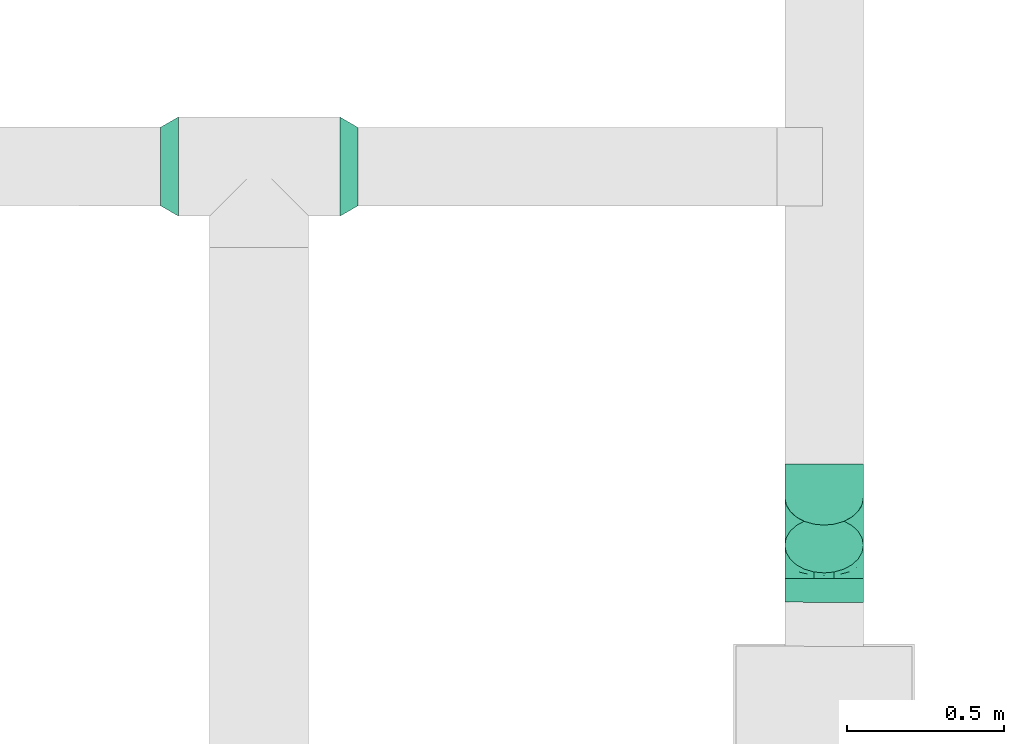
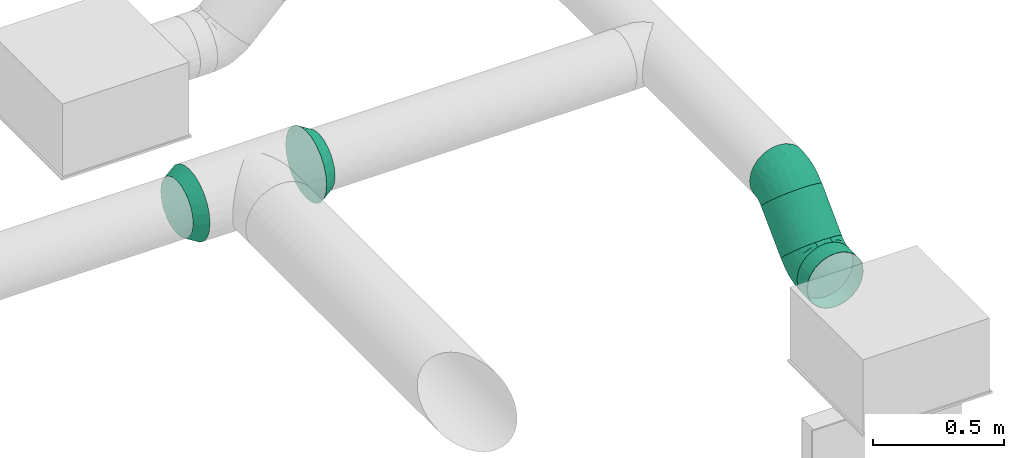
# One storey, part 44 of 63: 4 flow fittings, 2 flow segments.
"""IFC2X3 building model written with IfcOpenShell, lengths in millimetres."""

from ifc_helpers import new_model, entity, si_unit, converted_unit, derived_unit, direction, frame, origin_with_axes, origin_2d_with_axis, place, context, subcontext, project, spatial, hollow_circle, extrude, open_shell, surface_model, source, transform, mapped, type_object, element, save


model = new_model("IFC2X3")

# Units and contexts
model_context = context("Model", 3, precision=0.01, world=frame((0.0, 4.29681676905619e-09, 0.0)), true_north=direction((4.01073788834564e-13, 1.0)))
plan_context = context("Plan", 3, precision=0.01, world=frame((0.0, 4.29681676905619e-09, 0.0)), true_north=direction((4.01073788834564e-13, 1.0)))
body_context = subcontext(model_context, "Body", "Model", "MODEL_VIEW")
ifc_project = project(units=[converted_unit("PLANEANGLEUNIT", "DEGREE", entity("IfcPositiveLengthMeasure", 0.0174532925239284), si_unit("PLANEANGLEUNIT", "RADIAN"), dimensions=[0, 0, 0, 0, 0, 0, 0]), si_unit("AREAUNIT", "SQUARE_METRE"), si_unit("LENGTHUNIT", "METRE", prefix="MILLI"), si_unit("MASSUNIT", "GRAM", prefix="KILO"), si_unit("POWERUNIT", "WATT"), si_unit("PRESSUREUNIT", "PASCAL"), si_unit("FORCEUNIT", "NEWTON", prefix="KILO"), si_unit("ELECTRICVOLTAGEUNIT", "VOLT"), si_unit("ELECTRICCURRENTUNIT", "AMPERE"), si_unit("THERMODYNAMICTEMPERATUREUNIT", "DEGREE_CELSIUS"), si_unit("TIMEUNIT", "SECOND"), si_unit("VOLUMEUNIT", "CUBIC_METRE"), derived_unit("LINEARVELOCITYUNIT", [(si_unit("LENGTHUNIT", "METRE"), 1), (si_unit("TIMEUNIT", "SECOND"), -1)]), derived_unit("VOLUMETRICFLOWRATEUNIT", [(si_unit("VOLUMEUNIT", "CUBIC_METRE"), 1), (si_unit("TIMEUNIT", "SECOND"), -1)]), derived_unit("THERMALTRANSMITTANCEUNIT", [(si_unit("POWERUNIT", "WATT"), 1), (si_unit("THERMODYNAMICTEMPERATUREUNIT", "KELVIN"), -1), (si_unit("AREAUNIT", "SQUARE_METRE"), -1)]), derived_unit("SOUNDPRESSUREUNIT", [(si_unit("PRESSUREUNIT", "PASCAL"), 1)])], contexts=[model_context, plan_context])

# Site, building, storey
site_placement = place(None, frame((0.0, -4.29681676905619e-09, 0.0), z_axis=(0.0, 0.0, 1.0), x_axis=(1.0, 0.0, 0.0)))
site = spatial("IfcSite", under=ifc_project, at=site_placement, CompositionType="ELEMENT")
building_placement = place(site_placement, frame((0.0, 4.29681676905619e-09, 0.0), z_axis=(0.0, 0.0, 1.0), x_axis=(1.0, 0.0, 0.0)))
building = spatial("IfcBuilding", under=site, at=building_placement, Name="mc-building", CompositionType="ELEMENT")
storey_placement = place(building_placement, frame((0.0, 0.0, 210900.0), z_axis=(0.0, 0.0, 1.0), x_axis=(1.0, 0.0, 0.0)))
storey = spatial("IfcBuildingStorey", under=building, at=storey_placement, Name="Nivå F", CompositionType="ELEMENT", Elevation=210900.0)

# Flow fittings
duct_fitting_type_1 = type_object("IfcDuctFittingType", Name="magicirc_elbow_short_001", PredefinedType="BEND")
shared_shape_1 = source(origin_with_axes(), body_context, "Body", "SurfaceModel", [
    surface_model("IfcShellBasedSurfaceModel", [(-62.13204, 0.0, -125.0), (-62.13204, -32.35238, -120.74073), (-62.13204, 32.35238, -120.74073), (-62.13204, 62.5, -108.25318), (-62.13204, 88.38835, -88.38835), (-62.13204, 108.25318, -62.5), (-62.13204, 120.74073, -32.35238), (-62.13204, -62.5, -108.25318), (-62.13204, -88.38835, -88.38835), (-62.13204, -125.0, 0.0), (-62.13204, -108.25318, -62.5), (-62.13204, -120.74073, -32.35238), (-62.13204, 125.0, 0.0), (-62.13204, -120.74073, 32.35238), (-62.13204, 120.74073, 32.35238), (-62.13204, 108.25318, 62.5), (-62.13204, 32.35238, 120.74073), (-62.13204, 62.5, 108.25318), (-62.13204, 88.38835, 88.38835), (-62.13204, -88.38835, 88.38835), (-62.13204, -108.25318, 62.5), (-62.13204, -32.35238, 120.74073), (-62.13204, 0.0, 125.0), (-62.13204, -62.5, 108.25318), (-32.61257, 120.48054, -62.5), (-41.44261, 129.31057, -32.35238), (-44.45436, 132.32233, 0.0), (-41.44261, 129.31057, 32.35238), (-32.61257, 120.48054, 62.5), (-39.32094, -100.77129, 72.52866), (-25.3983, -115.58366, 40.92131), (-9.38975, -99.61313, 67.6303), (-40.71594, 99.20513, 81.38635), (-18.56602, 106.43398, 88.38835), (6.93461, -16.74165, 121.22697), (-29.92798, -19.88945, 122.8817), (-17.69423, -50.99343, 111.83063), (-28.63512, 12.8945, 124.68547), (-43.55871, 45.16564, 117.17454), (-19.1971, 46.34588, 119.14586), (20.11216, -107.05726, 35.36285), (37.22525, -89.79474, 60.1728), (-42.64489, 65.81413, 107.6176), (18.18237, -43.89615, 109.72868), (-48.14682, 116.23669, 52.46898), (11.13029, 29.36587, 124.68547), (-8.4822, -119.71595, 0.0), (17.31186, -111.89141, 0.0), (-27.44697, 77.92943, 103.54984), (-1.13628, 62.73759, 117.17454), (-0.26019, 88.12816, 108.25318), (29.58221, -71.41779, 87.09722), (2.27359, -83.55864, 84.32151), (46.20365, -49.09439, 98.73245), (43.10591, -104.06687, 0.0), (-28.63512, 12.89449, -124.68547), (-29.92797, -19.88945, -122.8817), (11.13029, 29.36586, -124.68547), (-19.1971, 46.34588, -119.14586), (-43.55871, 45.16564, -117.17454), (-35.69649, 74.51237, -103.54983), (-25.3983, -115.58366, -40.92131), (-48.14682, 116.23669, -52.46898), (-39.32094, -100.77129, -72.52866), (-16.38313, 76.69211, -107.6176), (-18.56602, 106.43398, -88.38835), (-0.26019, 88.12816, -108.25318), (-17.69423, -50.99343, -111.83063), (6.93461, -16.74165, -121.22697), (-1.13628, 62.73759, -117.17454), (48.5695, -23.54609, -111.83063), (35.22623, 7.0983, -122.8817), (-9.38975, -99.61313, -67.63031), (2.04406, -67.38589, -98.73245), (29.58221, -71.41778, -87.09723), (43.93399, 43.934, -125.0), (106.43399, -18.56599, 88.38835), (132.32235, -44.45434, 0.0), (21.05739, 66.81058, -120.74073), (88.12817, -0.26017, 108.25318), (66.81057, 21.05741, -120.74073), (106.43399, -18.56599, -88.38835), (88.12817, -0.26017, -108.25318), (129.31058, -41.44258, -32.35238), (120.48055, -32.61255, -62.5), (21.05739, 66.81058, 120.74073), (43.93399, 43.934, 125.0), (129.31058, -41.44258, 32.35238), (120.48055, -32.61255, 62.5), (66.81057, 21.05741, 120.74073), (-31.08246, -121.94188, 0.0), (35.22622, 7.09831, 122.8817), (-25.98217, -78.69805, 94.74512), (-3.43913, -67.17105, 100.02812), (77.07669, -63.79755, 67.6303), (61.9235, -89.5906, 35.66991), (-52.56496, 126.90301, 0.0), (99.68931, -63.77067, 40.92131), (48.5695, -23.54609, 111.83062), (99.06018, -43.45194, 72.52866), (74.0201, -37.27574, 94.74512), (108.20455, -64.2473, 0.0), (90.64979, -78.65413, 0.0), (66.87785, -91.36049, 0.0), (19.56361, -107.13664, -35.66991), (-41.35812, 98.93914, -81.38635), (-25.98217, -78.69805, -94.74512), (61.47949, -89.92235, -35.36285), (18.18239, -43.89616, -109.72867), (57.47721, -60.69254, -84.32152), (74.02009, -37.27574, -94.74513), (77.07669, -63.79755, -67.6303), (37.17223, -89.81669, -60.17279), (99.68931, -63.77066, -40.92131), (99.06018, -43.45194, -72.52866), (49.92893, -45.06527, -100.02812)], [open_shell([[[0, 1, 2]], [[3, 2, 4]], [[1, 5, 2]], [[4, 2, 5]], [[5, 1, 6]], [[7, 8, 1]], [[9, 1, 8]], [[10, 11, 8]], [[9, 8, 11]], [[9, 6, 1]], [[9, 12, 6]], [[12, 13, 14]], [[15, 14, 16]], [[16, 17, 18]], [[15, 16, 18]], [[16, 14, 19]], [[20, 19, 13]], [[19, 14, 13]], [[21, 22, 23]], [[19, 23, 22]], [[19, 22, 16]], [[9, 13, 12]], [[24, 25, 26]], [[26, 27, 28]], [[29, 30, 31]], [[32, 33, 28]], [[30, 20, 13]], [[34, 35, 36]], [[21, 35, 22]], [[21, 23, 36]], [[16, 22, 37]], [[38, 37, 39]], [[31, 40, 41]], [[42, 17, 38]], [[38, 17, 16]], [[43, 34, 36]], [[35, 37, 22]], [[14, 15, 44]], [[42, 32, 18]], [[29, 19, 20]], [[40, 31, 30]], [[37, 45, 39]], [[45, 37, 34]], [[40, 46, 47]], [[42, 18, 17]], [[33, 32, 48]], [[27, 44, 28]], [[48, 39, 49]], [[33, 48, 50]], [[44, 32, 28]], [[18, 32, 15]], [[36, 35, 21]], [[37, 35, 34]], [[41, 51, 52]], [[14, 44, 27]], [[32, 44, 15]], [[37, 38, 16]], [[42, 39, 48]], [[39, 42, 38]], [[42, 48, 32]], [[48, 49, 50]], [[45, 49, 39]], [[30, 29, 20]], [[53, 43, 51]], [[46, 40, 30]], [[47, 54, 40]], [[41, 52, 31]], [[0, 2, 55]], [[56, 1, 0]], [[57, 55, 58]], [[59, 60, 58]], [[10, 61, 11]], [[3, 4, 60]], [[62, 6, 25]], [[61, 10, 63]], [[64, 65, 66]], [[1, 56, 67]], [[8, 63, 10]], [[7, 1, 67]], [[56, 55, 68]], [[25, 24, 62]], [[69, 64, 66]], [[2, 3, 59]], [[59, 55, 2]], [[69, 57, 58]], [[70, 68, 71]], [[55, 57, 68]], [[55, 56, 0]], [[67, 56, 68]], [[57, 71, 68]], [[6, 62, 5]], [[60, 59, 3]], [[55, 59, 58]], [[64, 58, 60]], [[58, 64, 69]], [[61, 63, 72]], [[72, 73, 74]], [[75, 76, 77]], [[66, 26, 78]], [[78, 79, 75]], [[24, 66, 65]], [[66, 24, 26]], [[80, 81, 82]], [[80, 75, 81]], [[81, 83, 84]], [[83, 81, 77]], [[75, 77, 81]], [[26, 28, 50]], [[50, 85, 26]], [[50, 28, 33]], [[26, 85, 86]], [[87, 76, 88]], [[77, 76, 87]], [[79, 86, 89]], [[76, 75, 79]], [[86, 79, 26]], [[78, 26, 79]], [[90, 46, 30]], [[91, 45, 34]], [[23, 92, 36]], [[52, 93, 92]], [[94, 41, 95]], [[23, 19, 92]], [[96, 14, 27]], [[40, 95, 41]], [[96, 12, 14]], [[94, 95, 97]], [[40, 54, 95]], [[98, 89, 91]], [[99, 88, 76]], [[89, 98, 79]], [[88, 99, 97]], [[88, 97, 87]], [[98, 100, 79]], [[53, 94, 100]], [[97, 101, 87]], [[85, 50, 49]], [[41, 94, 51]], [[30, 13, 90]], [[26, 96, 27]], [[95, 102, 97]], [[95, 54, 103]], [[86, 91, 89]], [[86, 85, 45]], [[45, 85, 49]], [[34, 43, 98]], [[29, 92, 19]], [[79, 100, 76]], [[52, 92, 31]], [[95, 103, 102]], [[53, 100, 98]], [[99, 100, 94]], [[45, 91, 86]], [[98, 91, 34]], [[13, 9, 90]], [[101, 97, 102]], [[101, 77, 87]], [[92, 29, 31]], [[100, 99, 76]], [[97, 99, 94]], [[93, 36, 92]], [[51, 43, 93]], [[51, 93, 52]], [[43, 36, 93]], [[43, 53, 98]], [[94, 53, 51]], [[104, 46, 61]], [[78, 75, 57]], [[4, 105, 60]], [[73, 72, 106]], [[80, 82, 70]], [[61, 90, 11]], [[83, 77, 101]], [[106, 7, 67]], [[107, 102, 103]], [[104, 54, 47]], [[72, 104, 61]], [[106, 8, 7]], [[68, 108, 67]], [[6, 12, 96]], [[109, 110, 111]], [[96, 26, 25]], [[112, 72, 74]], [[113, 83, 101]], [[82, 81, 110]], [[113, 84, 83]], [[64, 105, 65]], [[4, 5, 105]], [[114, 81, 84]], [[110, 109, 115]], [[70, 82, 110]], [[66, 78, 69]], [[75, 80, 71]], [[111, 114, 113]], [[108, 68, 70]], [[113, 101, 102]], [[107, 104, 112]], [[107, 111, 113]], [[111, 107, 112]], [[71, 57, 75]], [[104, 47, 46]], [[96, 25, 6]], [[114, 110, 81]], [[107, 54, 104]], [[73, 106, 67]], [[63, 106, 72]], [[62, 105, 5]], [[65, 105, 24]], [[70, 71, 80]], [[90, 61, 46]], [[90, 9, 11]], [[72, 112, 104]], [[112, 74, 109]], [[105, 62, 24]], [[57, 69, 78]], [[64, 60, 105]], [[113, 114, 84]], [[110, 114, 111]], [[106, 63, 8]], [[115, 70, 110]], [[73, 108, 74]], [[102, 107, 113]], [[103, 54, 107]], [[112, 109, 111]], [[74, 108, 115]], [[74, 115, 109]], [[108, 70, 115]], [[108, 73, 67]]])]),
])
flow_fitting_1_placement = place(storey_placement, frame((534103.93333, 458540.3671, 3960.01264), z_axis=(0.999999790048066, -0.000647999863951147, 0.0), x_axis=(0.000647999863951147, 0.999999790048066, 0.0)))
element("IfcFlowFitting", 1, at=flow_fitting_1_placement, inside=storey, type_object=duct_fitting_type_1, Name="magicirc_elbow_short_001", context=body_context, shape_type="MappedRepresentation", body=[
    mapped(shared_shape_1, transform((0.0, 0.0, 0.0), scale=1.0)),
])
shared_shape_2 = source(origin_with_axes(), body_context, "Body", "SurfaceModel", [
    surface_model("IfcShellBasedSurfaceModel", [(-62.13204, 0.0, -125.0), (-62.13204, -32.35238, -120.74073), (-62.13204, 32.35238, -120.74073), (-62.13204, 62.5, -108.25318), (-62.13204, 88.38835, -88.38835), (-62.13204, 108.25318, -62.5), (-62.13204, 120.74073, -32.35238), (-62.13204, -62.5, -108.25318), (-62.13204, -88.38835, -88.38835), (-62.13204, -125.0, 0.0), (-62.13204, -108.25318, -62.5), (-62.13204, -120.74073, -32.35238), (-62.13204, 125.0, 0.0), (-62.13204, -120.74073, 32.35238), (-62.13204, 120.74073, 32.35238), (-62.13204, 108.25318, 62.5), (-62.13204, 32.35238, 120.74073), (-62.13204, 62.5, 108.25318), (-62.13204, 88.38835, 88.38835), (-62.13204, -88.38835, 88.38835), (-62.13204, -108.25318, 62.5), (-62.13204, -32.35238, 120.74073), (-62.13204, 0.0, 125.0), (-62.13204, -62.5, 108.25318), (-32.61257, 120.48054, -62.5), (-41.44261, 129.31057, -32.35238), (-44.45436, 132.32233, 0.0), (-41.44261, 129.31057, 32.35238), (-32.61257, 120.48054, 62.5), (-39.32094, -100.77129, 72.52866), (-25.3983, -115.58366, 40.92131), (-9.38975, -99.61313, 67.6303), (-40.71594, 99.20513, 81.38635), (-18.56602, 106.43398, 88.38835), (6.93461, -16.74165, 121.22697), (-29.92798, -19.88945, 122.8817), (-17.69423, -50.99343, 111.83063), (-28.63512, 12.8945, 124.68547), (-43.55871, 45.16564, 117.17454), (-19.1971, 46.34588, 119.14586), (20.11216, -107.05726, 35.36285), (37.22525, -89.79474, 60.1728), (-42.64489, 65.81413, 107.6176), (18.18237, -43.89615, 109.72868), (-48.14682, 116.23669, 52.46898), (11.13029, 29.36587, 124.68547), (-8.4822, -119.71595, 0.0), (17.31186, -111.89141, 0.0), (-27.44697, 77.92943, 103.54984), (-1.13628, 62.73759, 117.17454), (-0.26019, 88.12816, 108.25318), (29.58221, -71.41779, 87.09722), (2.27359, -83.55864, 84.32151), (46.20365, -49.09439, 98.73245), (43.10591, -104.06687, 0.0), (-28.63512, 12.89449, -124.68547), (-29.92797, -19.88945, -122.8817), (11.13029, 29.36586, -124.68547), (-19.1971, 46.34588, -119.14586), (-43.55871, 45.16564, -117.17454), (-35.69649, 74.51237, -103.54983), (-25.3983, -115.58366, -40.92131), (-48.14682, 116.23669, -52.46898), (-39.32094, -100.77129, -72.52866), (-16.38313, 76.69211, -107.6176), (-18.56602, 106.43398, -88.38835), (-0.26019, 88.12816, -108.25318), (-17.69423, -50.99343, -111.83063), (6.93461, -16.74165, -121.22697), (-1.13628, 62.73759, -117.17454), (48.5695, -23.54609, -111.83063), (35.22623, 7.0983, -122.8817), (-9.38975, -99.61313, -67.63031), (2.04406, -67.38589, -98.73245), (29.58221, -71.41778, -87.09723), (43.93399, 43.934, -125.0), (106.43399, -18.56599, 88.38835), (132.32235, -44.45434, 0.0), (21.05739, 66.81058, -120.74073), (88.12817, -0.26017, 108.25318), (66.81057, 21.05741, -120.74073), (106.43399, -18.56599, -88.38835), (88.12817, -0.26017, -108.25318), (129.31058, -41.44258, -32.35238), (120.48055, -32.61255, -62.5), (21.05739, 66.81058, 120.74073), (43.93399, 43.934, 125.0), (129.31058, -41.44258, 32.35238), (120.48055, -32.61255, 62.5), (66.81057, 21.05741, 120.74073), (-31.08246, -121.94188, 0.0), (35.22622, 7.09831, 122.8817), (77.07669, -63.79755, 67.6303), (61.9235, -89.5906, 35.66991), (-52.56496, 126.90301, 0.0), (99.68931, -63.77067, 40.92131), (48.5695, -23.54609, 111.83062), (99.06018, -43.45194, 72.52866), (74.0201, -37.27574, 94.74512), (108.20455, -64.2473, 0.0), (90.64979, -78.65413, 0.0), (66.87785, -91.36049, 0.0), (-3.43913, -67.17105, 100.02812), (19.56361, -107.13664, -35.66991), (-41.35812, 98.93914, -81.38635), (-25.98217, -78.69805, -94.74512), (61.47949, -89.92235, -35.36285), (18.18239, -43.89616, -109.72867), (57.47721, -60.69254, -84.32152), (74.02009, -37.27574, -94.74513), (77.07669, -63.79755, -67.6303), (37.17223, -89.81669, -60.17279), (99.68931, -63.77066, -40.92131), (99.06018, -43.45194, -72.52866), (49.92893, -45.06527, -100.02812), (-25.98217, -78.69805, 94.74512)], [open_shell([[[0, 1, 2]], [[3, 2, 4]], [[1, 5, 2]], [[4, 2, 5]], [[5, 1, 6]], [[7, 8, 1]], [[9, 1, 8]], [[10, 11, 8]], [[9, 8, 11]], [[9, 6, 1]], [[9, 12, 6]], [[12, 13, 14]], [[15, 14, 16]], [[16, 17, 18]], [[15, 16, 18]], [[16, 14, 19]], [[20, 19, 13]], [[19, 14, 13]], [[21, 22, 23]], [[19, 23, 22]], [[19, 22, 16]], [[9, 13, 12]], [[24, 25, 26]], [[26, 27, 28]], [[29, 30, 31]], [[32, 33, 28]], [[30, 20, 13]], [[34, 35, 36]], [[21, 35, 22]], [[21, 23, 36]], [[16, 22, 37]], [[38, 37, 39]], [[31, 40, 41]], [[42, 17, 38]], [[38, 17, 16]], [[43, 34, 36]], [[35, 37, 22]], [[14, 15, 44]], [[42, 32, 18]], [[29, 19, 20]], [[40, 31, 30]], [[37, 45, 39]], [[45, 37, 34]], [[40, 46, 47]], [[42, 18, 17]], [[33, 32, 48]], [[27, 44, 28]], [[48, 39, 49]], [[33, 48, 50]], [[44, 32, 28]], [[18, 32, 15]], [[36, 35, 21]], [[37, 35, 34]], [[41, 51, 52]], [[14, 44, 27]], [[32, 44, 15]], [[37, 38, 16]], [[42, 39, 48]], [[39, 42, 38]], [[42, 48, 32]], [[48, 49, 50]], [[45, 49, 39]], [[30, 29, 20]], [[53, 43, 51]], [[46, 40, 30]], [[47, 54, 40]], [[41, 52, 31]], [[0, 2, 55]], [[56, 1, 0]], [[57, 55, 58]], [[59, 60, 58]], [[10, 61, 11]], [[3, 4, 60]], [[62, 6, 25]], [[61, 10, 63]], [[64, 65, 66]], [[1, 56, 67]], [[8, 63, 10]], [[7, 1, 67]], [[56, 55, 68]], [[25, 24, 62]], [[69, 64, 66]], [[2, 3, 59]], [[59, 55, 2]], [[69, 57, 58]], [[70, 68, 71]], [[55, 57, 68]], [[55, 56, 0]], [[67, 56, 68]], [[57, 71, 68]], [[6, 62, 5]], [[60, 59, 3]], [[55, 59, 58]], [[64, 58, 60]], [[58, 64, 69]], [[61, 63, 72]], [[72, 73, 74]], [[75, 76, 77]], [[66, 26, 78]], [[78, 79, 75]], [[24, 66, 65]], [[66, 24, 26]], [[80, 81, 82]], [[80, 75, 81]], [[81, 83, 84]], [[83, 81, 77]], [[75, 77, 81]], [[26, 28, 50]], [[50, 85, 26]], [[50, 28, 33]], [[26, 85, 86]], [[87, 76, 88]], [[77, 76, 87]], [[79, 86, 89]], [[76, 75, 79]], [[86, 79, 26]], [[78, 26, 79]], [[90, 46, 30]], [[91, 45, 34]], [[92, 41, 93]], [[94, 14, 27]], [[40, 93, 41]], [[94, 12, 14]], [[92, 93, 95]], [[40, 54, 93]], [[96, 89, 91]], [[97, 88, 76]], [[89, 96, 79]], [[88, 97, 95]], [[88, 95, 87]], [[96, 98, 79]], [[53, 92, 98]], [[95, 99, 87]], [[85, 50, 49]], [[41, 92, 51]], [[30, 13, 90]], [[26, 94, 27]], [[93, 100, 95]], [[93, 54, 101]], [[86, 91, 89]], [[86, 85, 45]], [[45, 85, 49]], [[34, 43, 96]], [[79, 98, 76]], [[93, 101, 100]], [[53, 98, 96]], [[97, 98, 92]], [[45, 91, 86]], [[96, 91, 34]], [[13, 9, 90]], [[99, 95, 100]], [[99, 77, 87]], [[98, 97, 76]], [[95, 97, 92]], [[51, 43, 102]], [[51, 102, 52]], [[43, 36, 102]], [[43, 53, 96]], [[92, 53, 51]], [[103, 46, 61]], [[78, 75, 57]], [[4, 104, 60]], [[73, 72, 105]], [[80, 82, 70]], [[61, 90, 11]], [[83, 77, 99]], [[105, 7, 67]], [[106, 100, 101]], [[103, 54, 47]], [[72, 103, 61]], [[105, 8, 7]], [[68, 107, 67]], [[6, 12, 94]], [[108, 109, 110]], [[94, 26, 25]], [[111, 72, 74]], [[112, 83, 99]], [[82, 81, 109]], [[112, 84, 83]], [[64, 104, 65]], [[4, 5, 104]], [[113, 81, 84]], [[109, 108, 114]], [[70, 82, 109]], [[66, 78, 69]], [[75, 80, 71]], [[110, 113, 112]], [[107, 68, 70]], [[112, 99, 100]], [[106, 103, 111]], [[106, 110, 112]], [[110, 106, 111]], [[71, 57, 75]], [[103, 47, 46]], [[94, 25, 6]], [[113, 109, 81]], [[106, 54, 103]], [[73, 105, 67]], [[63, 105, 72]], [[62, 104, 5]], [[65, 104, 24]], [[70, 71, 80]], [[90, 61, 46]], [[90, 9, 11]], [[72, 111, 103]], [[111, 74, 108]], [[104, 62, 24]], [[57, 69, 78]], [[64, 60, 104]], [[112, 113, 84]], [[109, 113, 110]], [[105, 63, 8]], [[114, 70, 109]], [[73, 107, 74]], [[100, 106, 112]], [[101, 54, 106]], [[111, 108, 110]], [[74, 107, 114]], [[74, 114, 108]], [[107, 70, 114]], [[107, 73, 67]], [[23, 115, 36]], [[52, 102, 115]], [[23, 19, 115]], [[29, 115, 19]], [[52, 115, 31]], [[115, 29, 31]], [[102, 36, 115]]])]),
])
flow_fitting_2_placement = place(storey_placement, frame((534104.08878, 458780.35435, 4200.0), z_axis=(-0.999999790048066, 0.000647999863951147, -3.79470760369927e-19), x_axis=(0.000458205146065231, 0.707106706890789, 0.707106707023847)))
element("IfcFlowFitting", 2, at=flow_fitting_2_placement, inside=storey, type_object=duct_fitting_type_1, Name="magicirc_elbow_short_001", context=body_context, shape_type="MappedRepresentation", body=[
    mapped(shared_shape_2, transform((0.0, 0.0, 0.0), scale=1.0)),
])
duct_fitting_type_2 = type_object("IfcDuctFittingType", Name="magicirc_reduction_001", PredefinedType="TRANSITION")
shared_shape_3 = source(origin_with_axes(), body_context, "Body", "SurfaceModel", [
    surface_model("IfcShellBasedSurfaceModel", [(0.0, 78.75, 136.39901), (0.0, 157.5, 0.0), (0.0, 40.764, 152.13332), (0.0, -78.75, 136.39901), (0.0, -152.13332, -40.764), (0.0, -111.36932, 111.36932), (0.0, -136.39901, 78.75), (0.0, -152.13332, 40.764), (0.0, -157.5, 0.0), (0.0, 152.13332, -40.764), (0.0, 136.39901, -78.75), (0.0, 0.0, -157.5), (0.0, 111.36932, -111.36932), (0.0, 78.75, -136.39901), (0.0, 40.764, -152.13332), (0.0, -136.39901, -78.75), (0.0, -78.75, -136.39901), (0.0, -111.36932, -111.36932), (0.0, -40.764, -152.13332), (0.0, 0.0, 157.5), (56.29165, 38.62713, 118.88206), (56.29165, -38.62713, 118.88206), (56.29165, -73.47315, 101.12712), (56.29165, -101.12712, 73.47315), (56.29165, -118.88206, 38.62713), (56.29165, -125.0, 0.0), (56.29165, 0.0, 125.0), (56.29165, 118.88206, -38.62713), (56.29165, 73.47315, 101.12712), (56.29165, 101.12712, 73.47315), (56.29165, 118.88206, 38.62713), (56.29165, -118.88206, -38.62713), (56.29165, -101.12712, -73.47315), (56.29165, 0.0, -125.0), (56.29165, -73.47315, -101.12712), (56.29165, -38.62713, -118.88206), (56.29165, 125.0, 0.0), (56.29165, 73.47315, -101.12712), (56.29165, 101.12712, -73.47315), (56.29165, 38.62713, -118.88206), (0.0, 136.39901, 78.75), (0.0, 111.36932, 111.36932), (0.0, -40.764, 152.13332), (0.0, 152.13332, 40.764)], [open_shell([[[0, 1, 2]], [[3, 4, 5]], [[6, 5, 4]], [[6, 4, 7]], [[7, 4, 8]], [[1, 9, 10]], [[11, 12, 13]], [[14, 11, 13]], [[15, 16, 17]], [[16, 11, 18]], [[1, 4, 19]], [[20, 21, 22]], [[23, 24, 25]], [[23, 25, 22]], [[20, 22, 25]], [[26, 21, 20]], [[20, 27, 28]], [[28, 27, 29]], [[27, 30, 29]], [[25, 27, 20]], [[31, 32, 33]], [[34, 35, 33]], [[34, 33, 32]], [[33, 27, 25]], [[30, 27, 36]], [[33, 37, 38]], [[38, 27, 33]], [[37, 33, 39]], [[25, 31, 33]], [[1, 19, 2]], [[40, 1, 41]], [[41, 1, 0]], [[5, 19, 4]], [[19, 5, 3]], [[3, 42, 19]], [[5, 4, 6]], [[8, 7, 4]], [[1, 40, 43]], [[1, 10, 14]], [[13, 14, 10]], [[13, 10, 12]], [[1, 14, 4]], [[14, 17, 15]], [[15, 4, 14]], [[14, 16, 17]], [[18, 16, 14]], [[11, 18, 14]], [[35, 34, 16]], [[33, 35, 18]], [[18, 11, 33]], [[16, 18, 35]], [[34, 17, 16]], [[31, 25, 4]], [[32, 31, 15]], [[15, 17, 32]], [[4, 15, 31]], [[25, 8, 4]], [[32, 17, 34]], [[27, 38, 10]], [[36, 27, 9]], [[9, 1, 36]], [[10, 9, 27]], [[38, 12, 10]], [[39, 33, 14]], [[37, 39, 13]], [[13, 12, 37]], [[14, 13, 39]], [[33, 11, 14]], [[37, 12, 38]], [[20, 28, 0]], [[26, 20, 2]], [[2, 19, 26]], [[0, 2, 20]], [[28, 41, 0]], [[30, 36, 43]], [[29, 30, 40]], [[40, 41, 29]], [[43, 40, 30]], [[36, 1, 43]], [[29, 41, 28]], [[24, 23, 6]], [[25, 24, 7]], [[7, 8, 25]], [[6, 7, 24]], [[23, 5, 6]], [[21, 26, 42]], [[22, 21, 3]], [[3, 5, 22]], [[42, 3, 21]], [[26, 19, 42]], [[22, 5, 23]], [[42, 19, 2]], [[0, 42, 2]], [[0, 41, 1]], [[0, 1, 42]], [[42, 4, 3]], [[11, 1, 9]], [[10, 11, 9]], [[12, 11, 10]], [[11, 15, 4]], [[11, 16, 15]], [[4, 1, 11]], [[1, 4, 42]], [[21, 22, 25]], [[21, 25, 26]], [[20, 26, 28]], [[26, 29, 28]], [[30, 29, 27]], [[27, 29, 26]], [[26, 25, 35]], [[31, 32, 34]], [[35, 27, 26]], [[35, 31, 34]], [[39, 35, 33]], [[35, 38, 27]], [[35, 37, 38]], [[39, 37, 35]], [[25, 31, 35]], [[25, 7, 8]], [[7, 24, 6]], [[19, 42, 26]], [[3, 21, 42]], [[26, 2, 19]], [[2, 20, 0]], [[1, 43, 36]], [[40, 30, 43]], [[36, 9, 1]], [[9, 27, 10]], [[11, 14, 33]], [[13, 39, 14]], [[33, 18, 11]], [[18, 35, 16]], [[8, 4, 25]], [[15, 31, 4]], [[26, 21, 22]], [[26, 23, 20]], [[23, 26, 22]], [[23, 27, 29]], [[28, 20, 29]], [[29, 36, 30]], [[29, 20, 23]], [[29, 27, 36]], [[23, 31, 27]], [[32, 34, 35]], [[27, 31, 32]], [[33, 32, 35]], [[38, 27, 37]], [[33, 37, 27]], [[27, 32, 33]], [[31, 23, 25]], [[41, 19, 2]], [[41, 2, 0]], [[19, 40, 4]], [[40, 19, 41]], [[7, 19, 4]], [[42, 5, 3]], [[42, 19, 5]], [[5, 7, 6]], [[19, 7, 5]], [[43, 10, 40]], [[9, 10, 43]], [[40, 10, 4]], [[4, 10, 13]], [[18, 13, 14]], [[4, 17, 15]], [[17, 4, 16]], [[13, 18, 16]], [[16, 4, 13]], [[43, 1, 9]], [[13, 37, 39]], [[38, 37, 12]], [[33, 14, 39]], [[27, 10, 9]], [[37, 13, 12]], [[11, 33, 18]], [[18, 33, 35]], [[34, 16, 35]], [[15, 32, 31]], [[17, 34, 32]], [[4, 31, 25]], [[17, 32, 15]], [[31, 4, 15]], [[3, 22, 21]], [[23, 22, 5]], [[26, 42, 21]], [[24, 6, 7]], [[22, 3, 5]], [[19, 26, 2]], [[2, 26, 20]], [[28, 0, 20]], [[40, 29, 30]], [[41, 28, 29]], [[43, 30, 36]], [[41, 29, 40]], [[30, 43, 40]]])]),
])
for number, where, z_axis, x_axis, name in (
    (3, (532563.64866, 459788.88693, 4200.0), (0.0, 0.0, 1.0), (0.999999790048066, -0.000647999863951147, 0.0), "magicirc_reduction_001"),
    (4, (532048.64877, 459789.22051, 4200.0), (0.0, 0.0, 1.0), (-0.999999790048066, 0.000647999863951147, 0.0), "magicirc_reduction_001"),
):
    element("IfcFlowFitting", number, at=place(storey_placement, frame(where, z_axis=z_axis, x_axis=x_axis)), inside=storey, type_object=duct_fitting_type_2, Name=name, context=body_context, shape_type="MappedRepresentation", body=[
        mapped(shared_shape_3, transform((0.0, 0.0, 0.0), scale=1.0)),
    ])

# Flow segments
duct_segment_type = type_object("IfcDuctSegmentType", Name="KK002T - Spiro kanaler, Forsinket stål, korte bend", PredefinedType="RIGIDSEGMENT")
shared_shape_4 = source(origin_with_axes(), body_context, "Body", "SweptSolid", [
    extrude(hollow_circle(Radius=125.0, WallThickness=2.0, at=origin_2d_with_axis()), frame((0.0, 0.0, 0.0), z_axis=(1.0, 0.0, 0.0), x_axis=(0.0, 1.0, 0.0)), (0.0, 0.0, 1.0), 75.7),
])
flow_segment_1_placement = place(storey_placement, frame((534103.84404, 458402.51509, 3960.01264), z_axis=(0.0, 0.0, 1.0), x_axis=(0.000647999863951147, 0.999999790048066, 0.0)))
element("IfcFlowSegment", 5, at=flow_segment_1_placement, inside=storey, type_object=duct_segment_type, Name="KK002T - Spiro kanaler, Forsinket stål, korte bend", context=body_context, shape_type="MappedRepresentation", body=[
    mapped(shared_shape_4, transform((0.0, 0.0, 0.0), scale=1.0)),
])
shared_shape_5 = source(origin_with_axes(), body_context, "Body", "SweptSolid", [
    extrude(hollow_circle(Radius=125.0, WallThickness=2.0, at=origin_2d_with_axis()), frame((0.0, 0.0, 0.0), z_axis=(1.0, 0.0, 0.0), x_axis=(0.0, 1.0, 0.0)), (0.0, 0.0, 1.0), 215.1),
])
flow_segment_2_placement = place(storey_placement, frame((534103.96179, 458584.30108, 4003.94662999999), z_axis=(-0.00045799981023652, -0.707106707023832, 0.707106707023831), x_axis=(0.000457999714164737, 0.707106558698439, 0.707106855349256)))
element("IfcFlowSegment", 6, at=flow_segment_2_placement, inside=storey, type_object=duct_segment_type, Name="KK002T - Spiro kanaler, Forsinket stål, korte bend", context=body_context, shape_type="MappedRepresentation", body=[
    mapped(shared_shape_5, transform((0.0, 0.0, 0.0), scale=1.0)),
])

save(model, "model.ifc")
